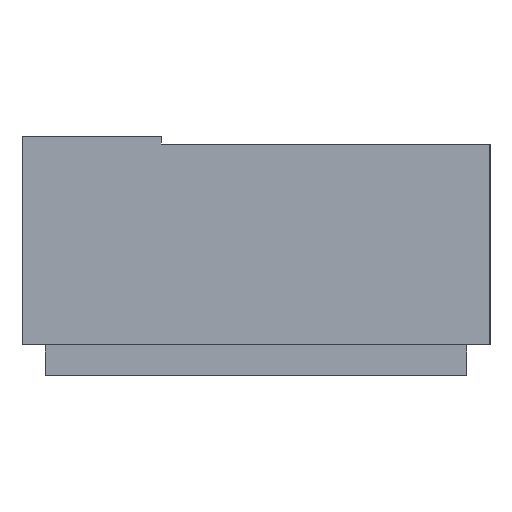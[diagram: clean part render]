
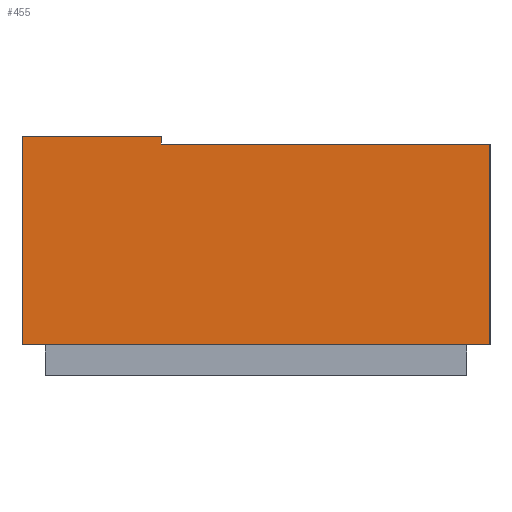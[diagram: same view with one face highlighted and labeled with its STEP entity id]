
A CAD part, left-side view. The second image highlights one B-rep face of the part: STEP entity #455.
In plain terms, the highlighted planar face has unit normal (-1, 0, 0).
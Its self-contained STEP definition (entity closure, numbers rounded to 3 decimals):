
#52 = VERTEX_POINT('',#53);
#53 = CARTESIAN_POINT('',(-3.2,-1.515,0.2));
#61 = EDGE_CURVE('',#52,#62,#64,.T.);
#62 = VERTEX_POINT('',#63);
#63 = CARTESIAN_POINT('',(-3.2,-1.515,1.5));
#64 = LINE('',#65,#66);
#65 = CARTESIAN_POINT('',(-3.2,-1.515,0.));
#66 = VECTOR('',#67,1.);
#67 = DIRECTION('',(0.,0.,1.));
#102 = VERTEX_POINT('',#103);
#103 = CARTESIAN_POINT('',(-3.2,1.515,0.2));
#109 = EDGE_CURVE('',#102,#52,#110,.T.);
#110 = LINE('',#111,#112);
#111 = CARTESIAN_POINT('',(-3.2,1.515,0.2));
#112 = VECTOR('',#113,1.);
#113 = DIRECTION('',(0.,-1.,0.));
#271 = VERTEX_POINT('',#272);
#272 = CARTESIAN_POINT('',(-3.2,0.615,1.5));
#278 = EDGE_CURVE('',#271,#62,#279,.T.);
#279 = LINE('',#280,#281);
#280 = CARTESIAN_POINT('',(-3.2,1.515,1.5));
#281 = VECTOR('',#282,1.);
#282 = DIRECTION('',(0.,-1.,0.));
#455 = ADVANCED_FACE('',(#456),#483,.T.);
#456 = FACE_BOUND('',#457,.T.);
#457 = EDGE_LOOP('',(#458,#466,#467,#468,#469,#477));
#458 = ORIENTED_EDGE('',*,*,#459,.F.);
#459 = EDGE_CURVE('',#102,#460,#462,.T.);
#460 = VERTEX_POINT('',#461);
#461 = CARTESIAN_POINT('',(-3.2,1.515,1.55));
#462 = LINE('',#463,#464);
#463 = CARTESIAN_POINT('',(-3.2,1.515,1.5));
#464 = VECTOR('',#465,1.);
#465 = DIRECTION('',(0.,0.,1.));
#466 = ORIENTED_EDGE('',*,*,#109,.T.);
#467 = ORIENTED_EDGE('',*,*,#61,.T.);
#468 = ORIENTED_EDGE('',*,*,#278,.F.);
#469 = ORIENTED_EDGE('',*,*,#470,.T.);
#470 = EDGE_CURVE('',#271,#471,#473,.T.);
#471 = VERTEX_POINT('',#472);
#472 = CARTESIAN_POINT('',(-3.2,0.615,1.55));
#473 = LINE('',#474,#475);
#474 = CARTESIAN_POINT('',(-3.2,0.615,1.5));
#475 = VECTOR('',#476,1.);
#476 = DIRECTION('',(0.,0.,1.));
#477 = ORIENTED_EDGE('',*,*,#478,.F.);
#478 = EDGE_CURVE('',#460,#471,#479,.T.);
#479 = LINE('',#480,#481);
#480 = CARTESIAN_POINT('',(-3.2,1.515,1.55));
#481 = VECTOR('',#482,1.);
#482 = DIRECTION('',(0.,-1.,0.));
#483 = PLANE('',#484);
#484 = AXIS2_PLACEMENT_3D('',#485,#486,#487);
#485 = CARTESIAN_POINT('',(-3.2,0.012,0.763));
#486 = DIRECTION('',(-1.,-0.,-0.));
#487 = DIRECTION('',(0.,0.,-1.));
